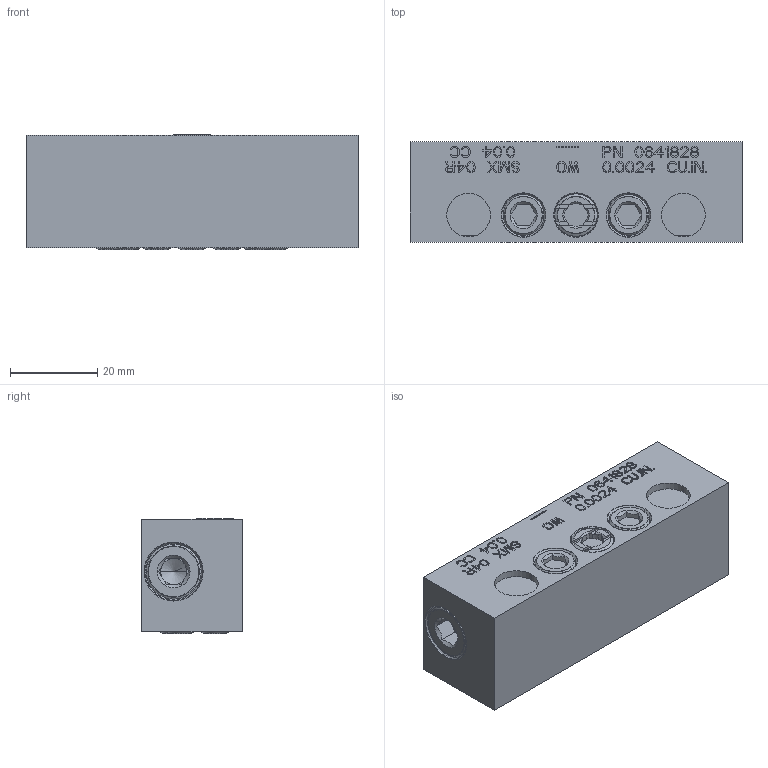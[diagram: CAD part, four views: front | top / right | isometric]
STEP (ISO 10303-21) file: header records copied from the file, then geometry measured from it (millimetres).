
FILE_DESCRIPTION((''),'2;1');
FILE_NAME('0641828_SMX_04R','2023-07-21T12:23:35',('pietro.masciave'),(''),'CREO PARAMETRIC BY PTC INC, 2022281','CREO PARAMETRIC BY PTC INC, 2022281','');
FILE_SCHEMA(('CONFIG_CONTROL_DESIGN'));
Length unit declared in the file: millimetre
Products named in the file (1): 0641828_SMX_04R
Bounding box: 76 x 23 x 26.33 mm (x, y, z)
Volume: 44002 mm3; surface area: 12684.9 mm2
Topology: 1 solids, 14 shells, 1373 faces, 3782 edges, 2513 vertices
Faces by surface type: plane 1197, cylinder 110, cone 44, torus 22
Entity records: 44200 total; most frequent: CARTESIAN_POINT 8966, ORIENTED_EDGE 7516, DIRECTION 6807, EDGE_CURVE 3778, VECTOR 3343, LINE 3343, VERTEX_POINT 2513, AXIS2_PLACEMENT_3D 1732
